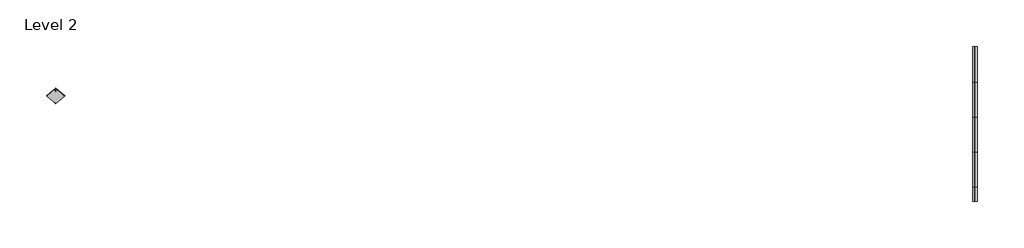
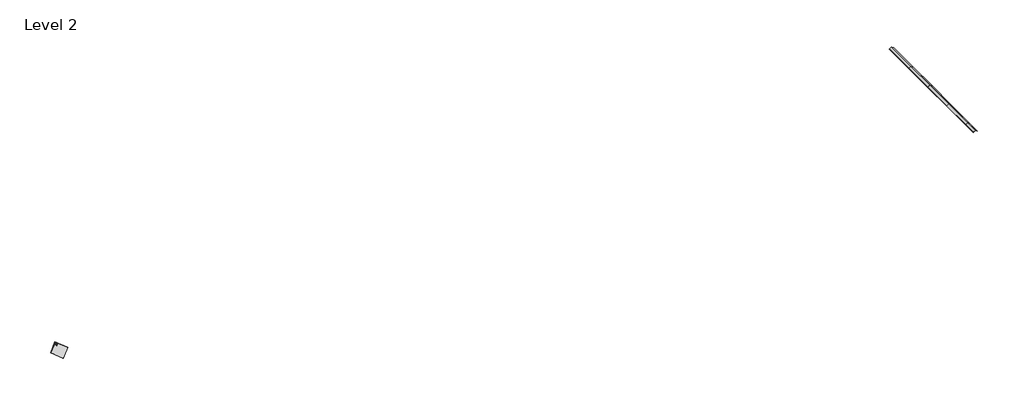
# One storey: 10 beams, 1 proxy.
"""IFC4 building model written with IfcOpenShell, lengths in millimetres."""

import ifcopenshell
import ifcopenshell.guid

model = None  # the IFC model being written
_history = None  # IfcOwnerHistory: only IFC2X3 demands one
_inside = {}  # id of a spatial element -> (the spatial element, [elements in it])
_under = {}  # id of a project, library or spatial element -> (it, [spatial elements below it])
_declared = {}  # id of a project -> (the project, [libraries it declares])
_typed = {}  # id of a type object -> (the type object, [elements of that type])
_made_of = {}  # id of a material, layer set ... -> (it, [elements and type objects made of it])


def new_model(schema):
    """Start an empty IFC model of exactly this schema.

    Asked for "IFC4X3", IfcOpenShell would pick the latest addendum, in which some entities
    have other attributes; the version numbers below select the first issue.
    IFC2X3 requires an IfcOwnerHistory on every rooted entity: one is made here for all.
    """
    global model, _history
    if schema == "IFC4X3":
        model = ifcopenshell.file(schema_version=(4, 3, 0, 0))
    else:
        model = ifcopenshell.file(schema=schema)
    _inside.clear()
    _under.clear()
    _declared.clear()
    _typed.clear()
    _made_of.clear()
    _history = None
    if model.schema == "IFC2X3":
        org = make("IfcOrganization", Name="unknown")
        user = make(
            "IfcPersonAndOrganization",
            ThePerson=make("IfcPerson", FamilyName="unknown"),
            TheOrganization=org,
        )
        app = make(
            "IfcApplication",
            ApplicationDeveloper=org,
            Version="unknown",
            ApplicationFullName="unknown",
            ApplicationIdentifier="unknown",
        )
        _history = make(
            "IfcOwnerHistory",
            OwningUser=user,
            OwningApplication=app,
            ChangeAction="ADDED",
            CreationDate=0,
        )
    return model


def make(cls, **values):
    """One entity of the class cls with the attributes given. An attribute that is None is left unset."""
    return model.create_entity(
        cls, **{name: value for name, value in values.items() if value is not None}
    )


def rooted(cls, **values):
    """An entity with a GlobalId (a new one), such as an element, a storey or a relation."""
    return make(cls, GlobalId=ifcopenshell.guid.new(), OwnerHistory=_history, **values)


def si_unit(unit_type, name, prefix=None):
    """IfcSIUnit, for example si_unit("LENGTHUNIT", "METRE", prefix="MILLI")."""
    return make("IfcSIUnit", UnitType=unit_type, Prefix=prefix, Name=name)


def assignment(units):
    """IfcUnitAssignment: the units of a project."""
    return None if units is None else make("IfcUnitAssignment", Units=units)


def point(xyz):
    """IfcCartesianPoint."""
    return None if xyz is None else make("IfcCartesianPoint", Coordinates=xyz)


def direction(xyz):
    """IfcDirection."""
    return None if xyz is None else make("IfcDirection", DirectionRatios=xyz)


def frame(location, z_axis=None, x_axis=None):
    """IfcAxis2Placement3D, a coordinate frame: its origin and axes. An axis left out is left unset."""
    return make(
        "IfcAxis2Placement3D",
        Location=point(location),
        Axis=direction(z_axis),
        RefDirection=direction(x_axis),
    )


def frame_2d(location, x_axis=None):
    """IfcAxis2Placement2D, a coordinate frame in the plane: its origin and x axis."""
    return make(
        "IfcAxis2Placement2D", Location=point(location), RefDirection=direction(x_axis)
    )


def origin():
    """The frame at (0, 0, 0) with its axes left unset."""
    return frame((0.0, 0.0, 0.0))


def place(relative_to, where):
    """IfcLocalPlacement: puts the frame where relative to a parent placement (None: the world)."""
    return make(
        "IfcLocalPlacement", PlacementRelTo=relative_to, RelativePlacement=where
    )


def context(
    kind, dimensions, precision=None, world=None, true_north=None, identifier=None
):
    """IfcGeometricRepresentationContext, for example the 3D "Model" context."""
    return make(
        "IfcGeometricRepresentationContext",
        ContextIdentifier=identifier,
        ContextType=kind,
        CoordinateSpaceDimension=dimensions,
        Precision=precision,
        WorldCoordinateSystem=world,
        TrueNorth=true_north,
    )


def project(units=None, contexts=None):
    """IfcProject with its units and contexts."""
    return rooted(
        "IfcProject",
        Name="project",
        RepresentationContexts=contexts,
        UnitsInContext=assignment(units),
    )


def spatial(cls, under=None, at=None, **own):
    """A site, building, storey or space (cls), placed at a placement, below another one or the project."""
    s = rooted(cls, ObjectPlacement=at, **own)
    if under is not None:
        _under.setdefault(under.id(), (under, []))[1].append(s)
    return s


def polyline(points):
    """IfcPolyline through the points."""
    return make("IfcPolyline", Points=[point(p) for p in points])


def circle_curve(where, radius):
    """IfcCircle in the frame where."""
    return make("IfcCircle", Position=where, Radius=radius)


def ellipse_curve(where, semi_axis1, semi_axis2):
    """IfcEllipse in the frame where."""
    return make(
        "IfcEllipse", Position=where, SemiAxis1=semi_axis1, SemiAxis2=semi_axis2
    )


def trimmed(basis, trim1, trim2, sense, master):
    """IfcTrimmedCurve: the piece of a basis curve between two trims."""
    return make(
        "IfcTrimmedCurve",
        BasisCurve=basis,
        Trim1=trim1,
        Trim2=trim2,
        SenseAgreement=sense,
        MasterRepresentation=master,
    )


def segment(curve, same_sense, transition):
    """IfcCompositeCurveSegment."""
    return make(
        "IfcCompositeCurveSegment",
        Transition=transition,
        SameSense=same_sense,
        ParentCurve=curve,
    )


def composite_curve(segments, self_intersect=None):
    """IfcCompositeCurve: segments joined end to end."""
    return make("IfcCompositeCurve", Segments=segments, SelfIntersect=self_intersect)


def outline(outer, holes=None, kind="AREA"):
    """IfcArbitraryClosedProfileDef: a profile drawn as a closed curve; with holes, ...WithVoids."""
    if holes is None:
        return make("IfcArbitraryClosedProfileDef", ProfileType=kind, OuterCurve=outer)
    return make(
        "IfcArbitraryProfileDefWithVoids",
        ProfileType=kind,
        OuterCurve=outer,
        InnerCurves=holes,
    )


def extrude(swept, where, along, depth):
    """IfcExtrudedAreaSolid: the profile swept, set in the frame where, extruded along a direction by depth."""
    return make(
        "IfcExtrudedAreaSolid",
        SweptArea=swept,
        Position=where,
        ExtrudedDirection=direction(along),
        Depth=depth,
    )


def shape(context_of_items, identifier, shape_type, items):
    """IfcShapeRepresentation: the items that make up one representation, for example the "Body"."""
    return make(
        "IfcShapeRepresentation",
        ContextOfItems=context_of_items,
        RepresentationIdentifier=identifier,
        RepresentationType=shape_type,
        Items=items,
    )


def source(mapping_origin, context_of_items, identifier, shape_type, items):
    """IfcRepresentationMap: a shape defined once, which mapped items show again and again."""
    return make(
        "IfcRepresentationMap",
        MappingOrigin=mapping_origin,
        MappedRepresentation=shape(context_of_items, identifier, shape_type, items),
    )


def transform(
    local_origin,
    x_axis=None,
    y_axis=None,
    z_axis=None,
    scale=None,
    scale2=None,
    scale3=None,
    uniform=True,
):
    """IfcCartesianTransformationOperator3D, or its non-uniform kind. x_axis, y_axis, z_axis: its Axis1, 2, 3."""
    if uniform:
        return make(
            "IfcCartesianTransformationOperator3D",
            Axis1=direction(x_axis),
            Axis2=direction(y_axis),
            LocalOrigin=point(local_origin),
            Scale=scale,
            Axis3=direction(z_axis),
        )
    return make(
        "IfcCartesianTransformationOperator3DnonUniform",
        Axis1=direction(x_axis),
        Axis2=direction(y_axis),
        LocalOrigin=point(local_origin),
        Scale=scale,
        Axis3=direction(z_axis),
        Scale2=scale2,
        Scale3=scale3,
    )


def mapped(mapping_source, mapping_target):
    """IfcMappedItem: shows the shape of a source again, moved by a transform."""
    return make(
        "IfcMappedItem", MappingSource=mapping_source, MappingTarget=mapping_target
    )


def made_of(thing, what):
    """Note that an element or type object is made of a material, layer set ...; save() writes the relation."""
    if what is not None:
        _made_of.setdefault(what.id(), (what, []))[1].append(thing)
    return thing


def element(
    cls,
    number,
    at=None,
    inside=None,
    cuts=None,
    type_object=None,
    material=None,
    context=None,
    identifier="Body",
    shape_type=None,
    held_by="IfcProductDefinitionShape",
    body=None,
    shapes=None,
    **own,
):
    """One element of the class cls, such as IfcWall. Its Tag is "e" and its number.

    at: its placement. inside: the storey or other place that contains it. cuts: it is an
    opening in that element (IfcRelVoidsElement). A single representation is given by context,
    identifier, shape_type and body (its items); several are given by shapes. held_by: the class
    of the entity that holds the representations. save() writes the other relations.
    """
    e = rooted(cls, Tag="e%d" % number, ObjectPlacement=at, **own)
    if body is not None:
        shapes = [shape(context, identifier, shape_type, body)]
    if shapes is not None:
        e.Representation = make(held_by, Representations=shapes)
    if inside is not None:
        _inside.setdefault(inside.id(), (inside, []))[1].append(e)
    if cuts is not None:
        rooted(
            "IfcRelVoidsElement", RelatingBuildingElement=cuts, RelatedOpeningElement=e
        )
    if type_object is not None:
        _typed.setdefault(type_object.id(), (type_object, []))[1].append(e)
    return made_of(e, material)


def aggregate(whole, parts):
    """IfcRelAggregates: a whole, such as a stair, and the parts it consists of."""
    return rooted("IfcRelAggregates", RelatingObject=whole, RelatedObjects=parts)


def save(model, path):
    """Write the relations noted so far, then the file.

    IfcRelAggregates (storeys below a building ...), IfcRelContainedInSpatialStructure (elements
    in a storey), IfcRelDefinesByType, IfcRelAssociatesMaterial and IfcRelDeclares: one each for
    every whole, place, type object, material and project.
    """
    for whole, parts in _under.values():
        aggregate(whole, parts)
    for where, things in _inside.values():
        rooted(
            "IfcRelContainedInSpatialStructure",
            RelatedElements=things,
            RelatingStructure=where,
        )
    for kind, things in _typed.values():
        rooted("IfcRelDefinesByType", RelatedObjects=things, RelatingType=kind)
    for what, things in _made_of.values():
        rooted("IfcRelAssociatesMaterial", RelatedObjects=things, RelatingMaterial=what)
    for by, libraries in _declared.values():
        rooted("IfcRelDeclares", RelatingContext=by, RelatedDefinitions=libraries)
    model.write(path)


def plane_surface(at):
    """IfcPlane: the flat surface through the origin of the frame at, square to its z axis."""
    return make("IfcPlane", Position=at)


def cylinder_surface(at, radius):
    """IfcCylindricalSurface: all points at the distance radius from the z axis of the frame at."""
    return make("IfcCylindricalSurface", Position=at, Radius=radius)


def revolved_surface(curve, axis_point, axis_direction):
    """IfcSurfaceOfRevolution: the curve turned about the line through axis_point along axis_direction."""
    return make(
        "IfcSurfaceOfRevolution",
        SweptCurve=make("IfcArbitraryOpenProfileDef", ProfileType="CURVE", Curve=curve),
        AxisPosition=make("IfcAxis1Placement", Location=point(axis_point), Axis=direction(axis_direction)),
    )


def advanced_brep(points, edges, surfaces, faces):
    """IfcAdvancedBrep: a solid bounded by faces that lie on surfaces and meet in shared edges.

    An edge is (start, end): straight between two places in points (the first is 0);
    or (start, end, curve); or (start, end, curve, False) where it runs against its curve.
    A face is (place in surfaces, loops), or (place, loops, False) where it looks against
    its surface's normal. A loop lists edges by number (the first is 1), with a minus sign
    where the edge is run from its end to its start. The first loop is the outer one.
    """
    corners = [point(p) for p in points]
    vertices = [make("IfcVertexPoint", VertexGeometry=c) for c in corners]
    made = []
    for start, end, *more in edges:
        made.append(
            make(
                "IfcEdgeCurve",
                EdgeStart=vertices[start],
                EdgeEnd=vertices[end],
                EdgeGeometry=more[0] if more else make("IfcPolyline", Points=[corners[start], corners[end]]),
                SameSense=more[1] if len(more) > 1 else True,
            )
        )
    hull = []
    for where, loops, *sense in faces:
        bounds = []
        for j, loop in enumerate(loops):
            ring = [make("IfcOrientedEdge", EdgeElement=made[abs(k) - 1], Orientation=k > 0) for k in loop]
            bounds.append(
                make(
                    "IfcFaceOuterBound" if j == 0 else "IfcFaceBound",
                    Bound=make("IfcEdgeLoop", EdgeList=ring),
                    Orientation=True,
                )
            )
        hull.append(make("IfcAdvancedFace", Bounds=bounds, FaceSurface=surfaces[where], SameSense=sense[0] if sense else True))
    return make("IfcAdvancedBrep", Outer=make("IfcClosedShell", CfsFaces=hull))


def structural_framing_105_structural_framing_15_bbb8b2a2(model_context):
    return source(origin(), model_context, "Body", "SweptSolid", [
        extrude(outline(polyline([(0.0, -174.3446796), (0.0, 0.0), (2470.0, 0.0), (2470.0, -174.3446796), (0.0, -174.3446796)])), frame((1206.7789073, 3925.5508021, 2800.0), z_axis=(-0.5735764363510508, 0.0, 0.8191520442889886), x_axis=(0.0, -1.0, 0.0)), (0.0, 0.0, 1.0), 25.0),
    ])


def structural_framing_155_structural_framing_15_fbad98d9(model_context):
    return source(origin(), model_context, "Body", "SweptSolid", [
        extrude(outline(polyline([(0.0, -174.3446795), (0.0, 0.0), (2470.0, 0.0), (2470.0, -174.3446795), (0.0, -174.3446795)])), frame((1349.5937079, 3925.5508021, 2700.0), z_axis=(0.5735764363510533, 0.0, 0.8191520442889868), x_axis=(0.0, -1.0, 0.0)), (0.0, 0.0, 1.0), 25.0),
    ])


def structural_framing_156_structural_framing_15_8572bb24(model_context):
    return source(origin(), model_context, "Body", "SweptSolid", [
        extrude(outline(polyline([(0.0, -174.3446795), (0.0, 0.0), (2400.0, 0.0), (2400.0, -174.3446795), (0.0, -174.3446795)])), frame((1349.5937079, 3925.5508021, 2700.0), z_axis=(0.5735764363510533, 0.0, 0.8191520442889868), x_axis=(0.0, -1.0, 0.0)), (0.0, 0.0, 1.0), 25.0),
    ])


def structural_framing_159_structural_framing_15_e730e61d(model_context):
    return source(origin(), model_context, "Body", "SweptSolid", [
        extrude(outline(polyline([(0.0, -174.3446795), (0.0, 0.0), (958.4556079, 0.0), (958.4556079, -174.3446795), (0.0, -174.3446795)])), frame((1349.5937079, 3925.5508021, 2700.0), z_axis=(0.5735764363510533, 0.0, 0.8191520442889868), x_axis=(0.0, -1.0, 0.0)), (0.0, 0.0, 1.0), 25.0),
    ])


def structural_framing_100_structural_framing_15_5def26a6(model_context):
    return source(origin(), model_context, "Body", "SweptSolid", [
        extrude(outline(polyline([(0.0, -174.3446796), (0.0, 0.0), (2400.0, 0.0), (2400.0, -174.3446796), (0.0, -174.3446796)])), frame((1206.7789073, 3925.5508021, 2800.0), z_axis=(-0.5735764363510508, 0.0, 0.8191520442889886), x_axis=(0.0, -1.0, 0.0)), (0.0, 0.0, 1.0), 25.0),
    ])


def structural_framing_109_structural_framing_15_08dff260(model_context):
    return source(origin(), model_context, "Body", "SweptSolid", [
        extrude(outline(polyline([(0.0, -174.3446796), (0.0, 0.0), (958.4556079, 0.0), (958.4556079, -174.3446796), (0.0, -174.3446796)])), frame((1206.7789073, 3925.5508021, 2800.0), z_axis=(-0.5735764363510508, 0.0, 0.8191520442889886), x_axis=(0.0, -1.0, 0.0)), (0.0, 0.0, 1.0), 25.0),
    ])


def generic_models_39b62107(model_context):
    return source(origin(), model_context, "Body", "SolidModel", [
        advanced_brep(
        [(0.0, -592.202006, 26.2215343), (0.0, -578.8689254, 25.9982384), (0.0, -579.2372345, 4.0063691), (0.0, -592.5703151, 4.229665), (0.0, -597.7012348, 26.3136327), (0.0, -573.3696966, 25.90614), (0.0, -592.7522385, 31.2274395), (0.0, -578.1513756, 30.9829114), (0.0, -585.3177786, 39.1080636), (0.0, -578.0173471, 38.9857996), (0.0, -592.6182101, 39.2303277), (0.0, -585.9037748, 4.118017)],
        [
            (0, 1, circle_curve(frame((0.0, -585.5354657, 26.1098864), z_axis=(0.0, -0.016745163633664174, -0.9998597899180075), x_axis=(0.0, 0.9998597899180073, -0.01674516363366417)), 6.6674751)),
            (1, 2),
            (2, 3, circle_curve(frame((0.0, -585.9037748, 4.118017), z_axis=(0.0, 0.016745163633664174, 0.9998597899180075), x_axis=(0.0, 0.9998597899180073, -0.01674516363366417)), 6.6674751)),
            (3, 0),
            (1, 0, circle_curve(frame((0.0, -585.5354657, 26.1098864), z_axis=(0.0, -0.016745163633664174, -0.9998597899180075), x_axis=(0.0, 0.9998597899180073, -0.01674516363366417)), 6.6674751)),
            (3, 2, circle_curve(frame((0.0, -585.9037748, 4.118017), z_axis=(0.0, 0.016745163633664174, 0.9998597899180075), x_axis=(0.0, 0.9998597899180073, -0.01674516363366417)), 6.6674751)),
            (4, 5, circle_curve(frame((0.0, -585.5354657, 26.1098864), z_axis=(0.0, -0.016745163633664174, -0.9998597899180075), x_axis=(0.0, 0.9998597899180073, -0.01674516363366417)), 12.1674751)),
            (5, 1),
            (0, 4),
            (5, 4, circle_curve(frame((0.0, -585.5354657, 26.1098864), z_axis=(0.0, -0.016745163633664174, -0.9998597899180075), x_axis=(0.0, 0.9998597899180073, -0.01674516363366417)), 12.1674751)),
            (6, 7, circle_curve(frame((0.0, -585.451807, 31.1051755), z_axis=(0.0, -0.016745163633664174, -0.9998597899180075), x_axis=(0.0, 0.9998597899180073, -0.01674516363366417)), 7.3014552)),
            (7, 5, circle_curve(frame((0.0, -578.4555735, 25.90614), z_axis=(-1.0, 0.0, 0.0), x_axis=(0.0, -1.0, 0.0)), 5.0858769)),
            (4, 6, circle_curve(frame((0.0, -592.6182101, 26.1433289), z_axis=(-1.0, 0.0, 0.0), x_axis=(0.0, 0.9994391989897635, -0.03348563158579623)), 5.0858769)),
            (7, 6, circle_curve(frame((0.0, -585.451807, 31.1051755), z_axis=(0.0, -0.016745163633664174, -0.9998597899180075), x_axis=(0.0, 0.9998597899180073, -0.01674516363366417)), 7.3014552)),
            (8, 9),
            (9, 10, circle_curve(frame((0.0, -585.3177786, 39.1080636), z_axis=(0.0, 0.016745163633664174, 0.9998597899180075), x_axis=(0.0, 0.9998597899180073, -0.01674516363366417)), 7.3014552)),
            (10, 8),
            (10, 9, circle_curve(frame((0.0, -585.3177786, 39.1080636), z_axis=(0.0, 0.016745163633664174, 0.9998597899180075), x_axis=(0.0, 0.9998597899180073, -0.01674516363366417)), 7.3014552)),
            (2, 11),
            (11, 3),
            (9, 7),
            (6, 10),
        ],
        [
            cylinder_surface(frame((0.0, -585.3177786, 39.1080636), z_axis=(0.0, 0.01674516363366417, 0.9998597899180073), x_axis=(0.0, 0.9998597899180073, -0.01674516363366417)), 6.6674751),
            plane_surface(frame((0.0, -585.5354657, 26.1098864), z_axis=(0.0, -0.016745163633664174, -0.9998597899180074), x_axis=(0.0, 0.9998597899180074, -0.016745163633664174))),
            revolved_surface(trimmed(ellipse_curve(frame((0.0, -578.4555735, 25.90614), z_axis=(1.0, 0.0, 0.0), x_axis=(0.0, -1.0, 0.0)), 5.0858769, 5.0858769), [point((0.0, -573.3696966, 25.90614))], [point((0.0, -578.1513756, 30.9829114))], True, "CARTESIAN"), (0.0, -585.3177786, 39.1080636), (0.0, 0.01674516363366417, 0.9998597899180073)),
            plane_surface(frame((0.0, -585.3177786, 39.1080636), z_axis=(0.0, 0.016745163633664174, 0.9998597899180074), x_axis=(0.0, 0.9998597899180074, -0.016745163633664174))),
            plane_surface(frame((0.0, -585.9037748, 4.118017), z_axis=(0.0, -0.016745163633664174, -0.9998597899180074), x_axis=(0.0, 0.9998597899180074, -0.016745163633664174))),
            cylinder_surface(frame((0.0, -585.3177786, 39.1080636), z_axis=(0.0, 0.01674516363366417, 0.9998597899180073), x_axis=(0.0, 0.9998597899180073, -0.01674516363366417)), 7.3014552),
        ],
        [
            (0, [[1, 2, 3, 4]]),
            (0, [[5, -4, 6, -2]]),
            (1, [[7, 8, -1, 9]]),
            (1, [[10, -9, -5, -8]]),
            (2, [[11, 12, -7, 13]]),
            (2, [[14, -13, -10, -12]]),
            (3, [[15, 16, 17]]),
            (3, [[-17, 18, -15]]),
            (4, [[-3, 19, 20]]),
            (4, [[-6, -20, -19]]),
            (5, [[-16, 21, -11, 22]]),
            (5, [[-18, -22, -14, -21]]),
        ],
    ),
        advanced_brep(
        [(0.0, 361.8961325, 20.2441668), (0.0, 377.2289335, 19.9873805), (0.0, 381.7283021, 19.9120273), (0.0, 357.3967639, 20.31952), (0.0, 361.6282103, 4.2464102), (0.0, 376.9610105, 3.9896239), (0.0, 357.1288413, 4.3217634), (0.0, 381.4603795, 3.9142707)],
        [
            (0, 1, circle_curve(frame((0.0, 369.562533, 20.1157737), z_axis=(0.0, -0.016745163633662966, -0.9998597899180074), x_axis=(0.0, 0.9998597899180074, -0.016745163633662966)), 7.6674755)),
            (1, 2),
            (2, 3, circle_curve(frame((0.0, 369.562533, 20.1157737), z_axis=(0.0, 0.016745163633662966, 0.9998597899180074), x_axis=(0.0, 0.9998597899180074, -0.016745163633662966)), 12.1674751)),
            (3, 0),
            (1, 0, circle_curve(frame((0.0, 369.562533, 20.1157737), z_axis=(0.0, -0.016745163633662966, -0.9998597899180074), x_axis=(0.0, 0.9998597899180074, -0.016745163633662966)), 7.6674755)),
            (3, 2, circle_curve(frame((0.0, 369.562533, 20.1157737), z_axis=(0.0, 0.016745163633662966, 0.9998597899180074), x_axis=(0.0, 0.9998597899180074, -0.016745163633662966)), 12.1674751)),
            (4, 5, circle_curve(frame((0.0, 369.2946104, 4.118017), z_axis=(0.0, -0.016745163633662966, -0.9998597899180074), x_axis=(0.0, 0.9998597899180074, -0.016745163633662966)), 7.6674751)),
            (5, 1),
            (0, 4),
            (5, 4, circle_curve(frame((0.0, 369.2946104, 4.118017), z_axis=(0.0, -0.016745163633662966, -0.9998597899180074), x_axis=(0.0, 0.9998597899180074, -0.016745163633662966)), 7.6674751)),
            (6, 7, circle_curve(frame((0.0, 369.2946104, 4.118017), z_axis=(0.0, -0.016745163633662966, -0.9998597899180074), x_axis=(0.0, 0.9998597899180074, -0.016745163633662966)), 12.1674751)),
            (7, 5),
            (4, 6),
            (7, 6, circle_curve(frame((0.0, 369.2946104, 4.118017), z_axis=(0.0, -0.016745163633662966, -0.9998597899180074), x_axis=(0.0, 0.9998597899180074, -0.016745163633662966)), 12.1674751)),
            (2, 7),
            (6, 3),
        ],
        [
            plane_surface(frame((0.0, 369.562533, 20.1157737), z_axis=(0.0, 0.016745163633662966, 0.9998597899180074), x_axis=(0.0, 0.9998597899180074, -0.016745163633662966))),
            revolved_surface(polyline([(0.0, 377.2289330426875, 19.987380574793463), (0.0, 376.96101042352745, 3.989623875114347)]), (0.0, 369.562533, 20.1157737), (0.0, 0.016745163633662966, 0.9998597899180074)),
            plane_surface(frame((0.0, 369.2946104, 4.118017), z_axis=(0.0, -0.016745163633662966, -0.9998597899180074), x_axis=(0.0, 0.9998597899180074, -0.016745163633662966))),
            cylinder_surface(frame((0.0, 369.562533, 20.1157737), z_axis=(0.0, 0.016745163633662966, 0.9998597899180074), x_axis=(0.0, 0.9998597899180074, -0.016745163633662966)), 12.1674751),
        ],
        [
            (0, [[1, 2, 3, 4]]),
            (0, [[5, -4, 6, -2]]),
            (1, [[7, 8, -1, 9]]),
            (1, [[10, -9, -5, -8]]),
            (2, [[11, 12, -7, 13]]),
            (2, [[14, -13, -10, -12]]),
            (3, [[-3, 15, -11, 16]]),
            (3, [[-6, -16, -14, -15]]),
        ],
    ),
        extrude(outline(polyline([(0.0, -11.9999999), (0.0, 0.0), (858.0626589, 0.0), (858.1829764, 858.0626505), (870.1829763, 858.0609679), (870.0609764, -12.0), (0.0, -11.9999999)])), frame((606.7847845, -8.5982257, 16.4476231), z_axis=(0.0, 0.016745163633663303, 0.9998597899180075), x_axis=(-0.7071563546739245, 0.7069580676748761, -0.011839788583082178)), (0.0, 0.0, 1.0), 1.5),
        extrude(outline(polyline([(995.0941908, 0.0), (995.2161906, -870.0609679), (125.1552142, -870.0609678), (125.0332144, 0.0), (995.0941908, 0.0)]), holes=[composite_curve([segment(trimmed(circle_curve(frame_2d((146.1396988, -849.0730846)), 8.0), [point((140.4824479, -843.4166269))], [point((151.7969496, -854.7295422))], True, "CARTESIAN"), True, "CONTINUOUS"), segment(trimmed(circle_curve(frame_2d((146.1396988, -849.0730846)), 8.0), [point((151.7969496, -854.7295422))], [point((140.4824479, -843.4166269))], True, "CARTESIAN"), True, "CONTINUOUS")], self_intersect=False), composite_curve([segment(trimmed(circle_curve(frame_2d((821.5432581, -173.5748135)), 12.0), [point((813.0573819, -165.0901271))], [point((830.0291344, -182.0595))], True, "CARTESIAN"), True, "CONTINUOUS"), segment(trimmed(circle_curve(frame_2d((821.5432581, -173.5748135)), 12.0), [point((830.0291344, -182.0595))], [point((813.0573819, -165.0901271))], True, "CARTESIAN"), True, "CONTINUOUS")], self_intersect=False)]), frame((-703.686858, -88.6072499, 11.7867338), z_axis=(0.0, 0.01674516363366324, 0.9998597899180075), x_axis=(0.707156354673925, 0.7069580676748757, -0.011839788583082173)), (0.0, 0.0, 1.0), 6.0),
        advanced_brep(
        [(-102.0275718, 494.9998575, 18.0150106), (-84.944396, 477.9190769, 18.3010712), (-13.3, 505.8109871, 17.8339511), (-13.3, 395.9341043, 19.6741155), (-29.3894281, 369.7299846, 20.1129693), (0.0, 340.3446773, 20.6051), (29.3894281, 369.7299846, 20.1129693), (13.3, 395.9341043, 19.6741155), (13.3, 505.8109871, 17.8339511), (84.944396, 477.9190769, 18.3010712), (102.0275718, 494.9998575, 18.0150106), (-12.0, 369.7299846, 20.1129693), (12.0, 369.7299846, 20.1129693), (-102.0275718, 494.8324058, 8.0164127), (102.0275718, 494.8324058, 8.0164127), (114.2509691, 483.797483, 8.2012202), (128.9467134, 469.1058594, 8.4472683), (111.2690438, 451.4306685, 8.7432838), (84.9431983, 477.7528228, 8.3024532), (13.3, 505.6435355, 7.8353532), (13.3, 395.7666527, 9.6755176), (29.3894281, 369.562533, 10.1143714), (0.0, 340.1772257, 10.6065021), (-29.3894281, 369.562533, 10.1143714), (-13.3, 395.7666527, 9.6755176), (-13.3, 505.6435355, 7.8353532), (-84.944396, 477.7516253, 8.3024733), (-111.2690438, 451.4306685, 8.7432838), (-128.9467134, 469.1058594, 8.4472683), (-114.2509691, 483.797483, 8.2012202), (-12.0, 369.562533, 10.1143714), (12.0, 369.562533, 10.1143714), (102.0275718, 494.8742688, 10.5160622), (-102.0275718, 494.8742688, 10.5160622), (128.9467134, 469.1477223, 10.9469178), (114.2509691, 483.8393459, 10.7008697), (84.944396, 477.7934882, 10.8021227), (111.2690438, 451.4725314, 11.2429333), (-128.9467134, 469.1477223, 10.9469178), (-111.2690438, 451.4725314, 11.2429333), (-84.9431983, 477.7946858, 10.8021027), (-114.2509691, 483.8393459, 10.7008697)],
        [
            (0, 1),
            (1, 2, circle_curve(frame((0.0, 365.7229584, 20.180077), z_axis=(0.0, -0.01674516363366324, -0.9998597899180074), x_axis=(1.0, 0.0, 0.0)), 140.737522)),
            (2, 3),
            (3, 4, circle_curve(frame((0.0, 369.7299846, 20.1129693), z_axis=(0.0, 0.01674516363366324, 0.9998597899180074), x_axis=(1.0, 0.0, 0.0)), 29.3894281)),
            (4, 5),
            (5, 6),
            (6, 7, circle_curve(frame((0.0, 369.7299846, 20.1129693), z_axis=(0.0, 0.01674516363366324, 0.9998597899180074), x_axis=(1.0, 0.0, 0.0)), 29.3894281)),
            (7, 8),
            (8, 9, circle_curve(frame((0.0, 365.7229584, 20.180077), z_axis=(0.0, -0.01674516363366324, -0.9998597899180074), x_axis=(1.0, 0.0, 0.0)), 140.737522)),
            (9, 10),
            (10, 0, circle_curve(frame((0.0, 369.7299846, 20.1129693), z_axis=(0.0, 0.01674516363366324, 0.9998597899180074), x_axis=(1.0, 0.0, 0.0)), 161.57527)),
            (11, 12, circle_curve(frame((0.0, 369.7299846, 20.1129693), z_axis=(0.0, -0.01674516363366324, -0.9998597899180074), x_axis=(1.0, 0.0, 0.0)), 12.0)),
            (12, 11, circle_curve(frame((0.0, 369.7299846, 20.1129693), z_axis=(0.0, -0.01674516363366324, -0.9998597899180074), x_axis=(1.0, 0.0, 0.0)), 12.0)),
            (13, 14, circle_curve(frame((0.0, 369.562533, 10.1143714), z_axis=(0.0, -0.01674516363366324, -0.9998597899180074), x_axis=(1.0, 0.0, 0.0)), 161.57527)),
            (14, 15, circle_curve(frame((0.0, 369.562533, 10.1143714), z_axis=(0.0, -0.01674516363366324, -0.9998597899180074), x_axis=(1.0, 0.0, 0.0)), 161.57527)),
            (15, 16),
            (16, 17),
            (17, 18),
            (18, 19, circle_curve(frame((0.0, 365.5555068, 10.1814791), z_axis=(0.0, 0.01674516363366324, 0.9998597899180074), x_axis=(1.0, 0.0, 0.0)), 140.737522)),
            (19, 20),
            (20, 21, circle_curve(frame((0.0, 369.562533, 10.1143714), z_axis=(0.0, -0.01674516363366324, -0.9998597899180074), x_axis=(1.0, 0.0, 0.0)), 29.3894281)),
            (21, 22),
            (22, 23),
            (23, 24, circle_curve(frame((0.0, 369.562533, 10.1143714), z_axis=(0.0, -0.01674516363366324, -0.9998597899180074), x_axis=(1.0, 0.0, 0.0)), 29.3894281)),
            (24, 25),
            (25, 26, circle_curve(frame((0.0, 365.5555068, 10.1814791), z_axis=(0.0, 0.01674516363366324, 0.9998597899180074), x_axis=(1.0, 0.0, 0.0)), 140.737522)),
            (26, 27),
            (27, 28),
            (28, 29),
            (29, 13, circle_curve(frame((0.0, 369.562533, 10.1143714), z_axis=(0.0, -0.01674516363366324, -0.9998597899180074), x_axis=(-1.0, 0.0, 0.0)), 161.57527)),
            (30, 31, circle_curve(frame((0.0, 369.562533, 10.1143714), z_axis=(0.0, 0.01674516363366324, 0.9998597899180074), x_axis=(1.0, 0.0, 0.0)), 12.0)),
            (31, 30, circle_curve(frame((0.0, 369.562533, 10.1143714), z_axis=(0.0, 0.01674516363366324, 0.9998597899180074), x_axis=(1.0, 0.0, 0.0)), 12.0)),
            (2, 25),
            (24, 3),
            (23, 4),
            (22, 5),
            (21, 6),
            (20, 7),
            (19, 8),
            (10, 32),
            (32, 14),
            (13, 33),
            (33, 0),
            (11, 30),
            (31, 12),
            (34, 35),
            (35, 32, circle_curve(frame((0.0, 369.6043959, 12.6140208), z_axis=(0.0, 0.01674516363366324, 0.9998597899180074), x_axis=(1.0, 0.0, 0.0)), 161.57527)),
            (32, 36),
            (36, 37),
            (37, 34),
            (38, 39),
            (39, 40),
            (40, 33),
            (33, 41, circle_curve(frame((0.0, 369.6043959, 12.6140208), z_axis=(0.0, 0.01674516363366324, 0.9998597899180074), x_axis=(-1.0, 0.0, 0.0)), 161.57527)),
            (41, 38),
            (34, 16),
            (15, 35),
            (37, 17),
            (36, 18),
            (38, 28),
            (27, 39),
            (26, 40),
            (29, 41),
            (40, 1),
            (9, 36),
        ],
        [
            plane_surface(frame((-102.0275718, 494.9998575, 18.0150106), z_axis=(0.0, 0.01674516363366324, 0.9998597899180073), x_axis=(0.7071067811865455, -0.7070076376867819, 0.011840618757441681))),
            plane_surface(frame((-102.0275718, 494.8324058, 8.0164127), z_axis=(0.0, -0.01674516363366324, -0.9998597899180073), x_axis=(-0.7071067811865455, 0.7070076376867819, -0.011840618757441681))),
            plane_surface(frame((-13.3, 505.8109871, 17.8339511), z_axis=(-1.0000000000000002, 0.0, 0.0), x_axis=(0.0, -0.01674516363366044, -0.9998597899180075))),
            cylinder_surface(frame((0.0, 369.562533, 10.1143714), z_axis=(0.0, 0.01674516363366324, 0.9998597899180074), x_axis=(1.0, 0.0, 0.0)), 29.3894281),
            plane_surface(frame((-29.3894281, 369.7299846, 20.1129693), z_axis=(-0.7071067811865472, -0.7070076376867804, 0.011840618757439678), x_axis=(0.0, -0.016745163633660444, -0.9998597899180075))),
            plane_surface(frame((0.0, 340.3446773, 20.6051), z_axis=(0.7071067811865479, -0.7070076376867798, 0.011840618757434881), x_axis=(0.0, -0.01674516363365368, -0.9998597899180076))),
            plane_surface(frame((13.3, 395.9341043, 19.6741155), z_axis=(1.0000000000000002, 0.0, 0.0), x_axis=(0.0, -0.016745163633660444, -0.9998597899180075))),
            cylinder_surface(frame((0.0, 369.562533, 10.1143714), z_axis=(0.0, 0.01674516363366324, 0.9998597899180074), x_axis=(1.0, 0.0, 0.0)), 161.57527),
            revolved_surface(polyline([(12.0, 369.562533, 10.1143714), (12.0, 369.72998463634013, 20.112969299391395)]), (0.0, 369.562533, 10.1143714), (0.0, -0.01674516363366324, -0.9998597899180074)),
            plane_surface(frame((128.9467134, 469.1477223, 10.9469178), z_axis=(0.0, 0.01674516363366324, 0.9998597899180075), x_axis=(-0.7071563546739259, 0.7069580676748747, -0.011839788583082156))),
            plane_surface(frame((128.9467134, 469.1477223, 10.9469178), z_axis=(0.7070572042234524, 0.7070572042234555, -0.011841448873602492), x_axis=(0.0, -0.016745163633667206, -0.9998597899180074))),
            plane_surface(frame((111.2690438, 451.4725314, 11.2429333), z_axis=(0.7071067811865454, -0.7070076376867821, 0.011840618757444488), x_axis=(0.0, -0.016745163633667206, -0.9998597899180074))),
            plane_surface(frame((84.9431983, 477.7946858, 10.8021027), z_axis=(-0.7071067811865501, -0.7070076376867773, 0.011840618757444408), x_axis=(0.0, -0.016745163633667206, -0.9998597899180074))),
            plane_surface(frame((-128.9467134, 469.1477223, 10.9469178), z_axis=(-0.7071067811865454, -0.7070076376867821, 0.011840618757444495), x_axis=(0.0, -0.016745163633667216, -0.9998597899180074))),
            plane_surface(frame((-111.2690438, 451.4725314, 11.2429333), z_axis=(0.7071067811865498, -0.7070076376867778, 0.011840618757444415), x_axis=(0.0, -0.016745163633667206, -0.9998597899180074))),
            cylinder_surface(frame((0.0, 369.562533, 10.1143714), z_axis=(0.0, 0.01674516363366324, 0.9998597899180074), x_axis=(-1.0, 0.0, 0.0)), 161.57527),
            plane_surface(frame((-114.2509691, 483.8393459, 10.7008697), z_axis=(-0.7070572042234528, 0.7070572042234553, -0.011841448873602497), x_axis=(0.0, -0.016745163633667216, -0.9998597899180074))),
            plane_surface(frame((-102.0275718, 494.9998575, 18.0150106), z_axis=(-0.7071067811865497, -0.7070076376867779, 0.01184061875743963), x_axis=(0.0, -0.01674516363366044, -0.9998597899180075))),
            plane_surface(frame((84.944396, 477.9190769, 18.3010712), z_axis=(0.7071067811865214, -0.7070076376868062, 0.011840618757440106), x_axis=(0.0, -0.01674516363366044, -0.9998597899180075))),
            revolved_surface(polyline([(140.737522, 365.5555068, 10.1814791), (140.737522, 365.72295843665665, 20.180077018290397)]), (0.0, 365.5555068, 10.1814791), (0.0, -0.01674516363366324, -0.9998597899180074)),
            revolved_surface(polyline([(140.737522, 365.55550679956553, 10.181479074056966), (140.737522, 365.72295843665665, 20.180077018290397)]), (0.0, 365.5555068, 10.1814791), (0.0, -0.01674516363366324, -0.9998597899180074)),
        ],
        [
            (0, [[1, 2, 3, 4, 5, 6, 7, 8, 9, 10, 11], [12, 13]]),
            (1, [[14, 15, 16, 17, 18, 19, 20, 21, 22, 23, 24, 25, 26, 27, 28, 29, 30], [31, 32]]),
            (2, [[-3, 33, -25, 34]]),
            (3, [[-4, -34, -24, 35]]),
            (4, [[-5, -35, -23, 36]]),
            (5, [[-6, -36, -22, 37]]),
            (3, [[-7, -37, -21, 38]]),
            (6, [[-8, -38, -20, 39]]),
            (7, [[-11, 40, 41, -14, 42, 43]]),
            (8, [[-12, 44, -32, 45]]),
            (8, [[-13, -45, -31, -44]]),
            (9, [[46, 47, 48, 49, 50]]),
            (9, [[51, 52, 53, 54, 55]]),
            (10, [[-46, 56, -16, 57]]),
            (11, [[-50, 58, -17, -56]]),
            (7, [[-47, -57, -15, -41]]),
            (12, [[-49, 59, -18, -58]]),
            (13, [[-51, 60, -28, 61]]),
            (14, [[-52, -61, -27, 62]]),
            (15, [[-54, -42, -30, 63]]),
            (16, [[-55, -63, -29, -60]]),
            (17, [[-1, -43, -53, 64]]),
            (18, [[-10, 65, -48, -40]]),
            (19, [[-2, -64, -62, -26, -33]]),
            (20, [[-9, -39, -19, -59, -65]]),
        ],
    ),
    ])


model = new_model("IFC4")

# Units and contexts
model_context = context("Model", 3, world=origin())
ifc_project = project(units=[si_unit("LENGTHUNIT", "METRE", prefix="MILLI")], contexts=[model_context])

# Site, building, storey
site = spatial("IfcSite", under=ifc_project)
building = spatial("IfcBuilding", under=site)
storey = spatial("IfcBuildingStorey", under=building, Name="Level 2", Elevation=2687.5)

# Beams
placement = place(None, origin())
structural_framing_105_structural_framing_15_shape = structural_framing_105_structural_framing_15_bbb8b2a2(model_context)
element("IfcBeam", 1, ObjectType="Structural Framing 15 : Structural Framing 15", at=placement, inside=storey, context=model_context, shape_type="MappedRepresentation", body=[
    mapped(structural_framing_105_structural_framing_15_shape, transform((0.0, 0.0, 0.0), x_axis=(1.0, 0.0, 0.0), y_axis=(0.0, 1.0, 0.0), z_axis=(0.0, 0.0, 1.0))),
])
structural_framing_155_structural_framing_15_shape = structural_framing_155_structural_framing_15_fbad98d9(model_context)
element("IfcBeam", 2, ObjectType="Structural Framing 155 : Structural Framing 15", at=placement, inside=storey, context=model_context, shape_type="MappedRepresentation", body=[
    mapped(structural_framing_155_structural_framing_15_shape, transform((0.0, 0.0, 0.0), x_axis=(1.0, 0.0, 0.0), y_axis=(0.0, 1.0, 0.0), z_axis=(0.0, 0.0, 1.0))),
])
structural_framing_156_structural_framing_15_shape = structural_framing_156_structural_framing_15_8572bb24(model_context)
element("IfcBeam", 3, ObjectType="Structural Framing 156 : Structural Framing 15", at=placement, inside=storey, context=model_context, shape_type="MappedRepresentation", body=[
    mapped(structural_framing_156_structural_framing_15_shape, transform((0.0, -2470.0, 0.0), x_axis=(1.0, 0.0, 0.0), y_axis=(0.0, 1.0, 0.0), z_axis=(0.0, 0.0, 1.0))),
])
element("IfcBeam", 4, ObjectType="Structural Framing 157 : Structural Framing 15", at=placement, inside=storey, context=model_context, shape_type="MappedRepresentation", body=[
    mapped(structural_framing_156_structural_framing_15_shape, transform((0.0, -4870.0, 0.0), x_axis=(1.0, 0.0, 0.0), y_axis=(0.0, 1.0, 0.0), z_axis=(0.0, 0.0, 1.0))),
])
element("IfcBeam", 5, ObjectType="Structural Framing 158 : Structural Framing 15", at=placement, inside=storey, context=model_context, shape_type="MappedRepresentation", body=[
    mapped(structural_framing_156_structural_framing_15_shape, transform((0.0, -7270.0, 0.0), x_axis=(1.0, 0.0, 0.0), y_axis=(0.0, 1.0, 0.0), z_axis=(0.0, 0.0, 1.0))),
])
structural_framing_159_structural_framing_15_shape = structural_framing_159_structural_framing_15_e730e61d(model_context)
element("IfcBeam", 6, ObjectType="Structural Framing 159 : Structural Framing 15", at=placement, inside=storey, context=model_context, shape_type="MappedRepresentation", body=[
    mapped(structural_framing_159_structural_framing_15_shape, transform((0.0, -9670.0, 0.0), x_axis=(1.0, 0.0, 0.0), y_axis=(0.0, 1.0, 0.0), z_axis=(0.0, 0.0, 1.0))),
])
structural_framing_100_structural_framing_15_shape = structural_framing_100_structural_framing_15_5def26a6(model_context)
element("IfcBeam", 7, ObjectType="Structural Framing 16 : Structural Framing 15", at=placement, inside=storey, context=model_context, shape_type="MappedRepresentation", body=[
    mapped(structural_framing_100_structural_framing_15_shape, transform((0.0, -2470.0, 0.0), x_axis=(1.0, 0.0, 0.0), y_axis=(0.0, 1.0, 0.0), z_axis=(0.0, 0.0, 1.0))),
])
element("IfcBeam", 8, ObjectType="Structural Framing 17 : Structural Framing 15", at=placement, inside=storey, context=model_context, shape_type="MappedRepresentation", body=[
    mapped(structural_framing_100_structural_framing_15_shape, transform((0.0, -4870.0, 0.0), x_axis=(1.0, 0.0, 0.0), y_axis=(0.0, 1.0, 0.0), z_axis=(0.0, 0.0, 1.0))),
])
element("IfcBeam", 9, ObjectType="Structural Framing 18 : Structural Framing 15", at=placement, inside=storey, context=model_context, shape_type="MappedRepresentation", body=[
    mapped(structural_framing_100_structural_framing_15_shape, transform((0.0, -7270.0, 0.0), x_axis=(1.0, 0.0, 0.0), y_axis=(0.0, 1.0, 0.0), z_axis=(0.0, 0.0, 1.0))),
])
structural_framing_109_structural_framing_15_shape = structural_framing_109_structural_framing_15_08dff260(model_context)
element("IfcBeam", 10, ObjectType="Structural Framing 19 : Structural Framing 15", at=placement, inside=storey, context=model_context, shape_type="MappedRepresentation", body=[
    mapped(structural_framing_109_structural_framing_15_shape, transform((0.0, -9670.0, 0.0), x_axis=(1.0, 0.0, 0.0), y_axis=(0.0, 1.0, 0.0), z_axis=(0.0, 0.0, 1.0))),
])

# Proxy
generic_models_shape = generic_models_39b62107(model_context)
element("IfcBuildingElementProxy", 11, Name="Roofing_Panels_SunStyle_Tuile_Tuile-Non-Pv : Tuile Non PV - Noir", ObjectType="Roofing_Panels_SunStyle_Tuile_Tuile-Non-Pv : Tuile Non PV - Noir", at=placement, inside=storey, context=model_context, shape_type="MappedRepresentation", body=[
    mapped(generic_models_shape, transform((-61710.6645932, 547.7735462, 3402.4993439), x_axis=(1.0, 0.0, 0.0), y_axis=(0.0, 0.866025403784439, 0.49999999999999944), z_axis=(0.0, -0.49999999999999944, 0.866025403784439))),
])

save(model, "model.ifc")
